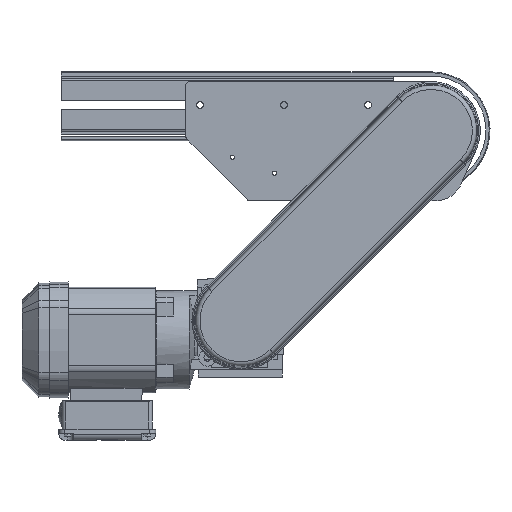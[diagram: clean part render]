
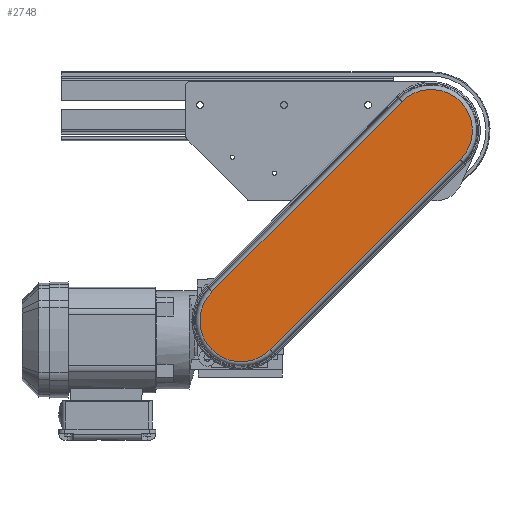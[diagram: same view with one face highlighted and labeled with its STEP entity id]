
A CAD part, left-side view. The second image highlights one B-rep face of the part: STEP entity #2748.
In plain terms, the highlighted planar face has unit normal (-1, 0, 0).
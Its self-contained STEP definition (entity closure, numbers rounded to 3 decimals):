
#2556=CARTESIAN_POINT('',(-452.441,-752.367,-16.084));
#2557=VERTEX_POINT('',#2556);
#2565=CARTESIAN_POINT('',(-452.441,-526.093,-242.358));
#2566=VERTEX_POINT('',#2565);
#2567=CARTESIAN_POINT('',(-452.441,-752.367,-16.084));
#2568=DIRECTION('',(0.0,0.707,-0.707));
#2569=VECTOR('',#2568,320.);
#2570=LINE('',#2567,#2569);
#2571=EDGE_CURVE('',#2557,#2566,#2570,.T.);
#2596=CARTESIAN_POINT('',(-452.441,-457.014,-173.279));
#2597=VERTEX_POINT('',#2596);
#2615=CARTESIAN_POINT('',(-452.441,-491.553,-207.818));
#2616=DIRECTION('',(1.0,0.,0.));
#2617=DIRECTION('',(0.,0.707,-0.707));
#2618=AXIS2_PLACEMENT_3D('',#2615,#2616,#2617);
#2619=CIRCLE('',#2618,48.846);
#2620=EDGE_CURVE('',#2566,#2597,#2619,.T.);
#2630=CARTESIAN_POINT('',(-452.441,-683.288,52.995));
#2631=VERTEX_POINT('',#2630);
#2648=CARTESIAN_POINT('',(-452.441,-457.014,-173.279));
#2649=DIRECTION('',(0.0,-0.707,0.707));
#2650=VECTOR('',#2649,320.);
#2651=LINE('',#2648,#2650);
#2652=EDGE_CURVE('',#2597,#2631,#2651,.T.);
#2671=CARTESIAN_POINT('',(-452.441,-717.828,18.456));
#2672=DIRECTION('',(1.0,0.,0.));
#2673=DIRECTION('',(0.,-0.707,0.707));
#2674=AXIS2_PLACEMENT_3D('',#2671,#2672,#2673);
#2675=CIRCLE('',#2674,48.846);
#2676=EDGE_CURVE('',#2631,#2557,#2675,.T.);
#2737=CARTESIAN_POINT('',(-452.441,-604.691,-94.681));
#2738=DIRECTION('',(-1.0,0.0,0.0));
#2739=DIRECTION('',(0.0,-0.707,0.707));
#2740=AXIS2_PLACEMENT_3D('',#2737,#2738,#2739);
#2741=PLANE('',#2740);
#2742=ORIENTED_EDGE('',*,*,#2571,.F.);
#2743=ORIENTED_EDGE('',*,*,#2676,.F.);
#2744=ORIENTED_EDGE('',*,*,#2652,.F.);
#2745=ORIENTED_EDGE('',*,*,#2620,.F.);
#2746=EDGE_LOOP('',(#2742,#2743,#2744,#2745));
#2747=FACE_OUTER_BOUND('',#2746,.T.);
#2748=ADVANCED_FACE('',(#2747),#2741,.T.);
